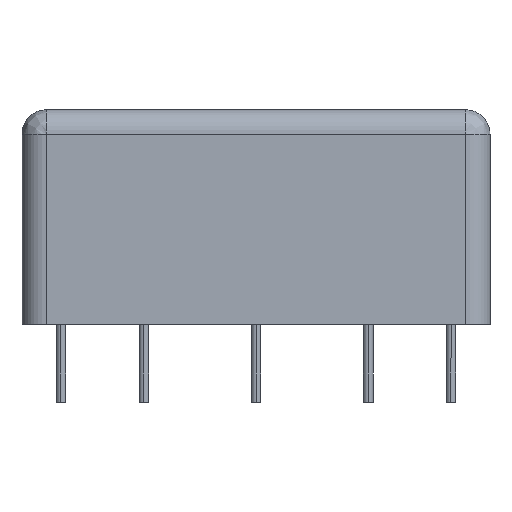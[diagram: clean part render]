
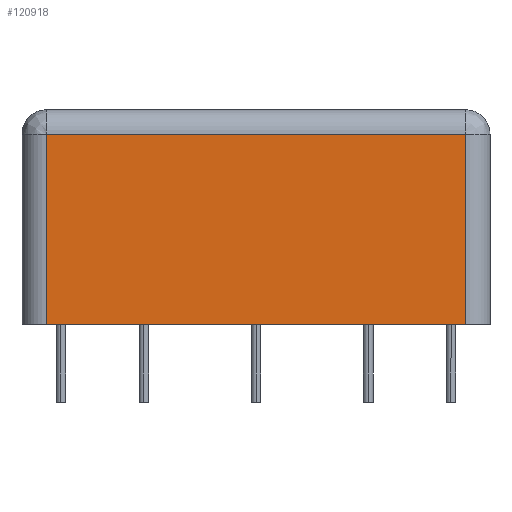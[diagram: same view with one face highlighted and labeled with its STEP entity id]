
A CAD part, front view. The second image highlights one B-rep face of the part: STEP entity #120918.
In plain terms, the highlighted planar face has unit normal (0, -1, 0) as drawn and (1, 0, 0) by its records, which use the part's own axes.
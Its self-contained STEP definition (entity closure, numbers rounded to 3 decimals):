
#1562 = CARTESIAN_POINT ( 'NONE',  ( 35., 21.5, 19.5 ) ) ;
#3014 = ORIENTED_EDGE ( 'NONE', *, *, #79293, .F. ) ;
#3683 = VECTOR ( 'NONE', #49105, 1000. ) ;
#14833 = CARTESIAN_POINT ( 'NONE',  ( 35., 24., 22. ) ) ;
#14943 = EDGE_CURVE ( 'NONE', #34327, #122895, #47498, .T. ) ;
#18387 = FACE_OUTER_BOUND ( 'NONE', #119792, .T. ) ;
#24402 = DIRECTION ( 'NONE',  ( 0., -1., 0. ) ) ;
#34327 = VERTEX_POINT ( 'NONE', #83707 ) ;
#41315 = EDGE_CURVE ( 'NONE', #78575, #98520, #69262, .T. ) ;
#41321 = LINE ( 'NONE', #64833, #88994 ) ;
#42699 = CARTESIAN_POINT ( 'NONE',  ( 35., 21.5, 0. ) ) ;
#43592 = AXIS2_PLACEMENT_3D ( 'NONE', #14833, #81518, #24402 ) ;
#47079 = CARTESIAN_POINT ( 'NONE',  ( 35., 21.5, 22. ) ) ;
#47498 = LINE ( 'NONE', #107918, #98141 ) ;
#49105 = DIRECTION ( 'NONE',  ( 0., 1., 0. ) ) ;
#50496 = DIRECTION ( 'NONE',  ( 0., 0., 1. ) ) ;
#64833 = CARTESIAN_POINT ( 'NONE',  ( 35., -24., 0. ) ) ;
#69204 = ORIENTED_EDGE ( 'NONE', *, *, #74055, .T. ) ;
#69262 = LINE ( 'NONE', #47079, #116916 ) ;
#74055 = EDGE_CURVE ( 'NONE', #34327, #98520, #41321, .T. ) ;
#77863 = CARTESIAN_POINT ( 'NONE',  ( 35., 24., 19.5 ) ) ;
#78575 = VERTEX_POINT ( 'NONE', #1562 ) ;
#79293 = EDGE_CURVE ( 'NONE', #122895, #78575, #104956, .T. ) ;
#79800 = ORIENTED_EDGE ( 'NONE', *, *, #41315, .F. ) ;
#81518 = DIRECTION ( 'NONE',  ( -1., 0., 0. ) ) ;
#83707 = CARTESIAN_POINT ( 'NONE',  ( 35., -21.5, 0. ) ) ;
#85806 = DIRECTION ( 'NONE',  ( 0., 0., -1. ) ) ;
#88994 = VECTOR ( 'NONE', #93574, 1000. ) ;
#90599 = PLANE ( 'NONE',  #43592 ) ;
#93574 = DIRECTION ( 'NONE',  ( 0., 1., 0. ) ) ;
#98141 = VECTOR ( 'NONE', #50496, 1000. ) ;
#98520 = VERTEX_POINT ( 'NONE', #42699 ) ;
#104956 = LINE ( 'NONE', #77863, #3683 ) ;
#107918 = CARTESIAN_POINT ( 'NONE',  ( 35., -21.5, 22. ) ) ;
#112485 = ORIENTED_EDGE ( 'NONE', *, *, #14943, .F. ) ;
#116171 = CARTESIAN_POINT ( 'NONE',  ( 35., -21.5, 19.5 ) ) ;
#116916 = VECTOR ( 'NONE', #85806, 1000. ) ;
#119792 = EDGE_LOOP ( 'NONE', ( #112485, #69204, #79800, #3014 ) ) ;
#120918 = ADVANCED_FACE ( 'NONE', ( #18387 ), #90599, .F. ) ;
#122895 = VERTEX_POINT ( 'NONE', #116171 ) ;
